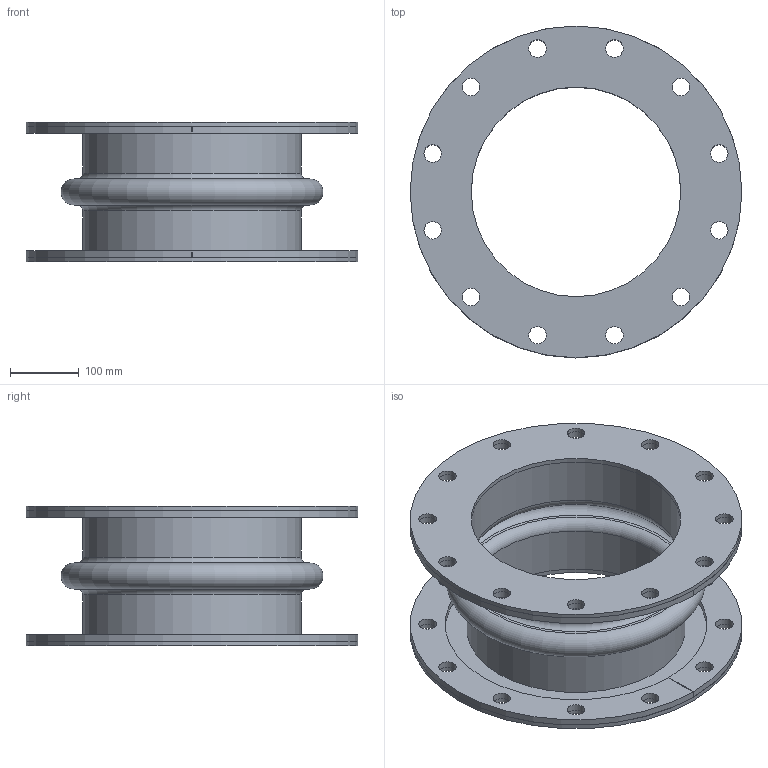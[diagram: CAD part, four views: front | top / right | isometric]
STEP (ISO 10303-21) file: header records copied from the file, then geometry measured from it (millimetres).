
FILE_DESCRIPTION(/* description */ (''),/* implementation_level */ '2;1');
FILE_NAME(/* name */ '12x8.stp',/* time_stamp */ '2026-07-21T16:12:22-05:00',/* author */ ('linda'),/* organization */ (''),/* preprocessor_version */ 'ST-DEVELOPER v20.1',/* originating_system */ 'Autodesk Inventor 2026',/* authorisation */ '');
FILE_SCHEMA (('AUTOMOTIVE_DESIGN { 1 0 10303 214 3 1 1 }'));
Length unit declared in the file: inch
Products named in the file (1): Part16
Bounding box: 482.6 x 482.6 x 203.2 mm (x, y, z)
Volume: 4007144.1 mm3; surface area: 1241489.1 mm2
Topology: 5 solids, 5 shells, 94 faces, 234 edges, 156 vertices
Faces by surface type: cylinder 64, plane 24, torus 6
Full cylindrical faces by diameter (mm): 25.4 x48, 304.8 x4, 317.5 x2, 482.6 x2
Entity records: 3233 total; most frequent: DIRECTION 570, CARTESIAN_POINT 485, ORIENTED_EDGE 468, AXIS2_PLACEMENT_3D 241, EDGE_CURVE 234, EDGE_LOOP 198, VERTEX_POINT 156, CIRCLE 146
